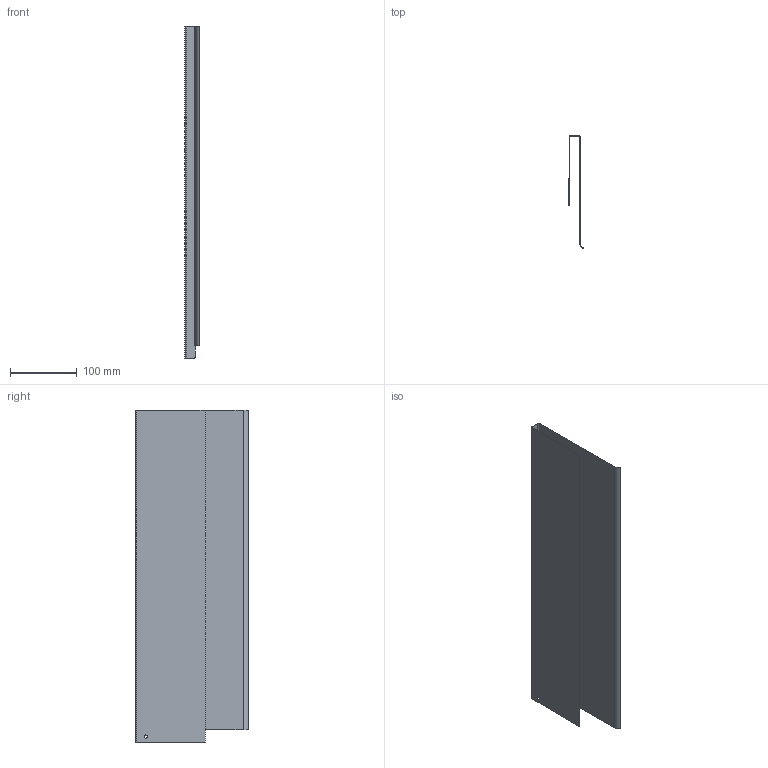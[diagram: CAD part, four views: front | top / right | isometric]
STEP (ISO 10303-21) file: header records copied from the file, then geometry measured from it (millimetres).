
FILE_DESCRIPTION (( 'STEP AP203' ), '1' );
FILE_NAME ('Nova Pro Duowing HRW H186 Deluxe links_NL500.step', '2014-02-14T12:24:43', ( 'test' ), ( '' ), 'SwSTEP 2.0', 'SolidWorks 2013', '' );
FILE_SCHEMA (( 'CONFIG_CONTROL_DESIGN' ));
Length unit declared in the file: millimetre
Products named in the file (1): Nova Pro Duowing HRW H186 Deluxe links_NL500
Bounding box: 21.82 x 169 x 497.5 mm (x, y, z)
Volume: 70114.8 mm3; surface area: 281252.8 mm2
Topology: 1 solids, 1 shells, 29 faces, 66 edges, 39 vertices
Faces by surface type: plane 20, cylinder 9
Entity records: 876 total; most frequent: CARTESIAN_POINT 147, DIRECTION 137, ORIENTED_EDGE 132, EDGE_CURVE 66, VECTOR 47, LINE 47, AXIS2_PLACEMENT_3D 45, VERTEX_POINT 39
